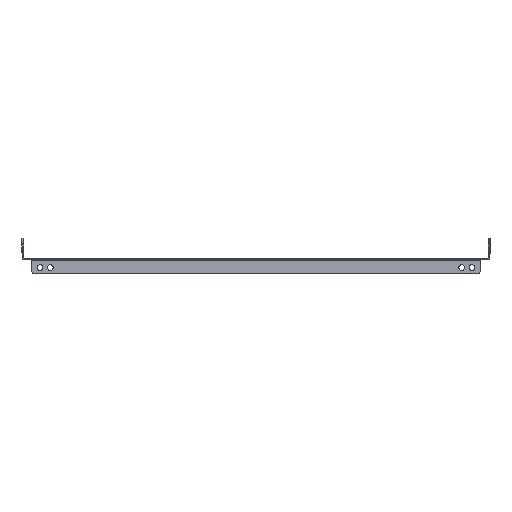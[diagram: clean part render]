
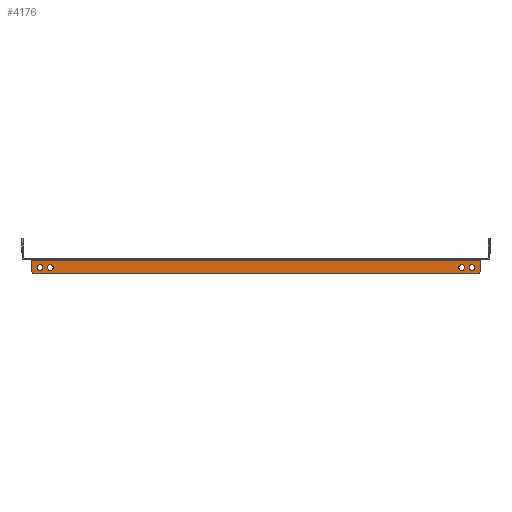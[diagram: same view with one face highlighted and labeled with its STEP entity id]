
A CAD part, left-side view. The second image highlights one B-rep face of the part: STEP entity #4176.
In plain terms, the highlighted planar face has unit normal (-1, 0, 0).
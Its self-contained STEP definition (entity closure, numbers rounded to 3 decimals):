
#21 = DIRECTION ( 'NONE',  ( -1., 0., 0. ) ) ;
#27 = EDGE_CURVE ( 'NONE', #365, #2240, #3771, .T. ) ;
#102 = EDGE_LOOP ( 'NONE', ( #709, #3093 ) ) ;
#103 = CARTESIAN_POINT ( 'NONE',  ( -450., 272.5, -14. ) ) ;
#129 = ORIENTED_EDGE ( 'NONE', *, *, #27, .F. ) ;
#204 = ORIENTED_EDGE ( 'NONE', *, *, #2633, .F. ) ;
#251 = DIRECTION ( 'NONE',  ( 0., 0., 1. ) ) ;
#280 = EDGE_CURVE ( 'NONE', #2514, #2568, #2934, .T. ) ;
#317 = CARTESIAN_POINT ( 'NONE',  ( -450., 269.5, -17. ) ) ;
#338 = VERTEX_POINT ( 'NONE', #1436 ) ;
#343 = AXIS2_PLACEMENT_3D ( 'NONE', #585, #2292, #3251 ) ;
#365 = VERTEX_POINT ( 'NONE', #1965 ) ;
#371 = DIRECTION ( 'NONE',  ( 0., 0., 1. ) ) ;
#511 = DIRECTION ( 'NONE',  ( -1., 0., 0. ) ) ;
#574 = DIRECTION ( 'NONE',  ( 0., 0., -1. ) ) ;
#585 = CARTESIAN_POINT ( 'NONE',  ( -450., 250., -9.5 ) ) ;
#632 = CARTESIAN_POINT ( 'NONE',  ( -450., -262.5, -6. ) ) ;
#634 = ORIENTED_EDGE ( 'NONE', *, *, #4106, .T. ) ;
#699 = EDGE_LOOP ( 'NONE', ( #3804, #634, #204, #1357, #3113, #2953 ) ) ;
#709 = ORIENTED_EDGE ( 'NONE', *, *, #2226, .F. ) ;
#712 = EDGE_LOOP ( 'NONE', ( #3415, #129 ) ) ;
#819 = CARTESIAN_POINT ( 'NONE',  ( -450., 262.5, -6. ) ) ;
#830 = AXIS2_PLACEMENT_3D ( 'NONE', #2965, #2393, #1634 ) ;
#840 = LINE ( 'NONE', #3555, #1602 ) ;
#894 = VECTOR ( 'NONE', #3616, 1000. ) ;
#918 = LINE ( 'NONE', #2655, #894 ) ;
#929 = FACE_BOUND ( 'NONE', #2307, .T. ) ;
#949 = FACE_BOUND ( 'NONE', #102, .T. ) ;
#960 = CIRCLE ( 'NONE', #830, 3.5 ) ;
#1013 = DIRECTION ( 'NONE',  ( 0., 0., -1. ) ) ;
#1035 = DIRECTION ( 'NONE',  ( -1., 0., 0. ) ) ;
#1089 = VERTEX_POINT ( 'NONE', #1221 ) ;
#1104 = VERTEX_POINT ( 'NONE', #1526 ) ;
#1189 = CIRCLE ( 'NONE', #1680, 3.5 ) ;
#1221 = CARTESIAN_POINT ( 'NONE',  ( -450., -269.5, -17. ) ) ;
#1226 = EDGE_CURVE ( 'NONE', #1104, #3720, #960, .T. ) ;
#1269 = CIRCLE ( 'NONE', #2694, 3.5 ) ;
#1296 = CARTESIAN_POINT ( 'NONE',  ( -450., -250., -9.5 ) ) ;
#1309 = EDGE_LOOP ( 'NONE', ( #1960, #1631 ) ) ;
#1357 = ORIENTED_EDGE ( 'NONE', *, *, #1860, .T. ) ;
#1380 = DIRECTION ( 'NONE',  ( -1., 0., 0. ) ) ;
#1436 = CARTESIAN_POINT ( 'NONE',  ( -450., -250., -6. ) ) ;
#1482 = AXIS2_PLACEMENT_3D ( 'NONE', #3527, #511, #1862 ) ;
#1526 = CARTESIAN_POINT ( 'NONE',  ( -450., 250., -13. ) ) ;
#1541 = AXIS2_PLACEMENT_3D ( 'NONE', #1296, #2654, #1564 ) ;
#1554 = EDGE_CURVE ( 'NONE', #2240, #365, #1189, .T. ) ;
#1564 = DIRECTION ( 'NONE',  ( 0., 0., -1. ) ) ;
#1602 = VECTOR ( 'NONE', #4162, 1000. ) ;
#1631 = ORIENTED_EDGE ( 'NONE', *, *, #1832, .F. ) ;
#1634 = DIRECTION ( 'NONE',  ( 0., 0., 1. ) ) ;
#1650 = DIRECTION ( 'NONE',  ( 0., 0., -1. ) ) ;
#1661 = AXIS2_PLACEMENT_3D ( 'NONE', #3000, #1035, #1650 ) ;
#1680 = AXIS2_PLACEMENT_3D ( 'NONE', #3241, #3100, #1013 ) ;
#1793 = EDGE_CURVE ( 'NONE', #338, #4201, #3358, .T. ) ;
#1832 = EDGE_CURVE ( 'NONE', #4201, #338, #3441, .T. ) ;
#1842 = AXIS2_PLACEMENT_3D ( 'NONE', #2915, #2580, #1913 ) ;
#1860 = EDGE_CURVE ( 'NONE', #3512, #2686, #1916, .T. ) ;
#1862 = DIRECTION ( 'NONE',  ( 0., 0., -1. ) ) ;
#1913 = DIRECTION ( 'NONE',  ( 0., 0., 1. ) ) ;
#1916 = LINE ( 'NONE', #4250, #2681 ) ;
#1927 = FACE_BOUND ( 'NONE', #712, .T. ) ;
#1944 = CARTESIAN_POINT ( 'NONE',  ( -450., 272.5, 0. ) ) ;
#1960 = ORIENTED_EDGE ( 'NONE', *, *, #1793, .F. ) ;
#1965 = CARTESIAN_POINT ( 'NONE',  ( -450., -262.5, -13. ) ) ;
#2097 = CARTESIAN_POINT ( 'NONE',  ( -450., 269.5, -14. ) ) ;
#2130 = AXIS2_PLACEMENT_3D ( 'NONE', #1944, #3629, #251 ) ;
#2187 = VECTOR ( 'NONE', #574, 1000. ) ;
#2226 = EDGE_CURVE ( 'NONE', #2870, #2742, #3716, .T. ) ;
#2240 = VERTEX_POINT ( 'NONE', #632 ) ;
#2246 = CIRCLE ( 'NONE', #343, 3.5 ) ;
#2292 = DIRECTION ( 'NONE',  ( -1., 0., 0. ) ) ;
#2303 = FACE_OUTER_BOUND ( 'NONE', #699, .T. ) ;
#2307 = EDGE_LOOP ( 'NONE', ( #3063, #2910 ) ) ;
#2324 = CARTESIAN_POINT ( 'NONE',  ( -450., -272.5, -0.6 ) ) ;
#2393 = DIRECTION ( 'NONE',  ( -1., 0., 0. ) ) ;
#2421 = CARTESIAN_POINT ( 'NONE',  ( -450., 272.5, -0.6 ) ) ;
#2514 = VERTEX_POINT ( 'NONE', #103 ) ;
#2568 = VERTEX_POINT ( 'NONE', #317 ) ;
#2580 = DIRECTION ( 'NONE',  ( -1., 0., 0. ) ) ;
#2624 = CARTESIAN_POINT ( 'NONE',  ( -450., -272.5, -17. ) ) ;
#2633 = EDGE_CURVE ( 'NONE', #3512, #3255, #3998, .T. ) ;
#2648 = CARTESIAN_POINT ( 'NONE',  ( -450., -269.5, -14. ) ) ;
#2654 = DIRECTION ( 'NONE',  ( -1., 0., 0. ) ) ;
#2655 = CARTESIAN_POINT ( 'NONE',  ( -450., 272.5, -17. ) ) ;
#2681 = VECTOR ( 'NONE', #4313, 1000. ) ;
#2686 = VERTEX_POINT ( 'NONE', #2421 ) ;
#2694 = AXIS2_PLACEMENT_3D ( 'NONE', #3379, #21, #3400 ) ;
#2742 = VERTEX_POINT ( 'NONE', #3769 ) ;
#2767 = CIRCLE ( 'NONE', #3803, 3. ) ;
#2870 = VERTEX_POINT ( 'NONE', #819 ) ;
#2910 = ORIENTED_EDGE ( 'NONE', *, *, #1226, .F. ) ;
#2915 = CARTESIAN_POINT ( 'NONE',  ( -450., 262.5, -9.5 ) ) ;
#2917 = EDGE_CURVE ( 'NONE', #2514, #2686, #840, .T. ) ;
#2934 = CIRCLE ( 'NONE', #3614, 3. ) ;
#2953 = ORIENTED_EDGE ( 'NONE', *, *, #280, .T. ) ;
#2965 = CARTESIAN_POINT ( 'NONE',  ( -450., 250., -9.5 ) ) ;
#2975 = CARTESIAN_POINT ( 'NONE',  ( -450., -272.5, -14. ) ) ;
#3000 = CARTESIAN_POINT ( 'NONE',  ( -450., -262.5, -9.5 ) ) ;
#3035 = EDGE_CURVE ( 'NONE', #3720, #1104, #2246, .T. ) ;
#3039 = CARTESIAN_POINT ( 'NONE',  ( -450., -250., -13. ) ) ;
#3048 = EDGE_CURVE ( 'NONE', #1089, #2568, #918, .T. ) ;
#3063 = ORIENTED_EDGE ( 'NONE', *, *, #3035, .F. ) ;
#3093 = ORIENTED_EDGE ( 'NONE', *, *, #3861, .F. ) ;
#3100 = DIRECTION ( 'NONE',  ( -1., 0., 0. ) ) ;
#3113 = ORIENTED_EDGE ( 'NONE', *, *, #2917, .F. ) ;
#3241 = CARTESIAN_POINT ( 'NONE',  ( -450., -262.5, -9.5 ) ) ;
#3251 = DIRECTION ( 'NONE',  ( 0., 0., 1. ) ) ;
#3255 = VERTEX_POINT ( 'NONE', #2975 ) ;
#3259 = PLANE ( 'NONE',  #2130 ) ;
#3358 = CIRCLE ( 'NONE', #1482, 3.5 ) ;
#3379 = CARTESIAN_POINT ( 'NONE',  ( -450., 262.5, -9.5 ) ) ;
#3400 = DIRECTION ( 'NONE',  ( 0., 0., 1. ) ) ;
#3415 = ORIENTED_EDGE ( 'NONE', *, *, #1554, .F. ) ;
#3441 = CIRCLE ( 'NONE', #1541, 3.5 ) ;
#3512 = VERTEX_POINT ( 'NONE', #2324 ) ;
#3527 = CARTESIAN_POINT ( 'NONE',  ( -450., -250., -9.5 ) ) ;
#3555 = CARTESIAN_POINT ( 'NONE',  ( -450., 272.5, 0. ) ) ;
#3608 = DIRECTION ( 'NONE',  ( -1., 0., 0. ) ) ;
#3610 = CARTESIAN_POINT ( 'NONE',  ( -450., 250., -6. ) ) ;
#3614 = AXIS2_PLACEMENT_3D ( 'NONE', #2097, #1380, #371 ) ;
#3616 = DIRECTION ( 'NONE',  ( 0., 1., 0. ) ) ;
#3629 = DIRECTION ( 'NONE',  ( -1., 0., 0. ) ) ;
#3716 = CIRCLE ( 'NONE', #1842, 3.5 ) ;
#3720 = VERTEX_POINT ( 'NONE', #3610 ) ;
#3769 = CARTESIAN_POINT ( 'NONE',  ( -450., 262.5, -13. ) ) ;
#3771 = CIRCLE ( 'NONE', #1661, 3.5 ) ;
#3803 = AXIS2_PLACEMENT_3D ( 'NONE', #2648, #3608, #3893 ) ;
#3804 = ORIENTED_EDGE ( 'NONE', *, *, #3048, .F. ) ;
#3861 = EDGE_CURVE ( 'NONE', #2742, #2870, #1269, .T. ) ;
#3893 = DIRECTION ( 'NONE',  ( 0., 0., 1. ) ) ;
#3956 = FACE_BOUND ( 'NONE', #1309, .T. ) ;
#3998 = LINE ( 'NONE', #2624, #2187 ) ;
#4106 = EDGE_CURVE ( 'NONE', #1089, #3255, #2767, .T. ) ;
#4162 = DIRECTION ( 'NONE',  ( 0., 0., 1. ) ) ;
#4176 = ADVANCED_FACE ( 'NONE', ( #1927, #3956, #929, #949, #2303 ), #3259, .T. ) ;
#4201 = VERTEX_POINT ( 'NONE', #3039 ) ;
#4250 = CARTESIAN_POINT ( 'NONE',  ( -450., 272.5, -0.6 ) ) ;
#4313 = DIRECTION ( 'NONE',  ( 0., 1., 0. ) ) ;
